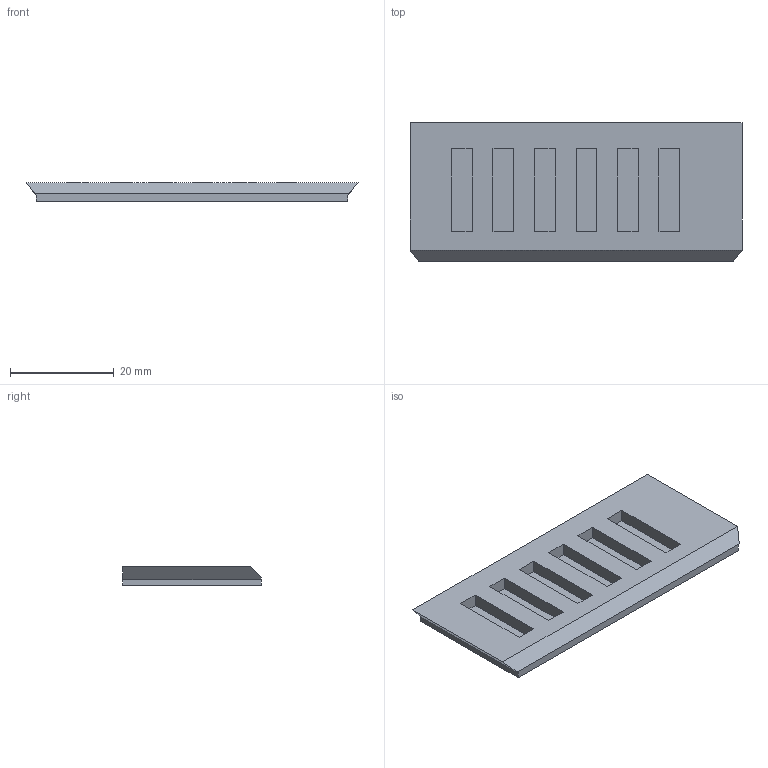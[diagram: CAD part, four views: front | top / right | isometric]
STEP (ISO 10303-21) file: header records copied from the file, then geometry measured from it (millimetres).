
FILE_DESCRIPTION(('Open CASCADE Model'),'2;1');
FILE_NAME('Open CASCADE Shape Model','2026-11-02T05:02:36',('Author'),( 'Open CASCADE'),'Open CASCADE STEP processor 7.8','Open CASCADE 7.8' ,'Unknown');
FILE_SCHEMA(('AUTOMOTIVE_DESIGN { 1 0 10303 214 1 1 1 1 }'));
Length unit declared in the file: millimetre
Products named in the file (1): Open CASCADE STEP translator 7.8 6
Bounding box: 64 x 26.7 x 3.65 mm (x, y, z)
Volume: 4894.7 mm3; surface area: 4491.1 mm2
Topology: 1 solids, 1 shells, 39 faces, 93 edges, 62 vertices
Faces by surface type: plane 39
Entity records: 2326 total; most frequent: CARTESIAN_POINT 381, DIRECTION 359, LINE 279, VECTOR 279, ORIENTED_EDGE 186, PCURVE 186, DEFINITIONAL_REPRESENTATION 186, EDGE_CURVE 93
